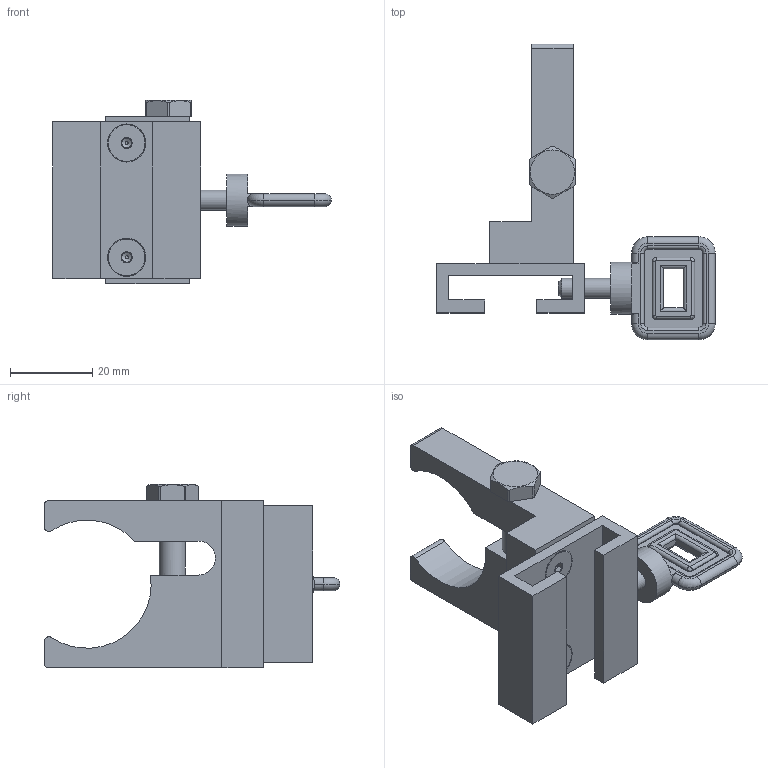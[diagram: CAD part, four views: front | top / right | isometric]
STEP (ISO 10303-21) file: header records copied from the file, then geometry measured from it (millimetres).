
FILE_DESCRIPTION((''),'2;1');
FILE_NAME('C:\3D Projects\3D Standard Parts\1070269 Valve Mounting Bracket Kit.stp','2008-07-30T11:51:19',('patch'),(''),'Autodesk Inventor 2009','Autodesk Inventor 2009','');
FILE_SCHEMA(('AUTOMOTIVE_DESIGN { 1 0 10303 214 1 1 1 1 }'));
Length unit declared in the file: inch
Products named in the file (8): 1070269 Valve Mounting Bracket Kit; 8901613 Valve 1049138 Mounting Bracket Assembly; 8901613 Valve 1049138 Mounting Bracket; 0.25-20 x .75 Heli-Coil; 987947 Rev A C-Clamp; 987948 Rev A Thumbscrew; 986419 Regular Hex Bolt 0.25-20 x 1.5; 984331 Flat Head Socket Screw #8-32 x 0.5
Assembly tree (8 placements, depth 3):
  1070269 Valve Mounting Bracket Kit
    8901613 Valve 1049138 Mounting Bracket Assembly
      8901613 Valve 1049138 Mounting Bracket
      0.25-20 x .75 Heli-Coil
    987947 Rev A C-Clamp
    987948 Rev A Thumbscrew
    986419 Regular Hex Bolt 0.25-20 x 1.5
    984331 Flat Head Socket Screw #8-32 x 0.5  x2
Bounding box: 67.67 x 71.83 x 44.61 mm (x, y, z)
Volume: 28799 mm3; surface area: 17769.3 mm2
Topology: 7 solids, 7 shells, 403 faces, 982 edges, 605 vertices
Faces by surface type: cylinder 146, cone 108, plane 96, bspline 34, torus 19
Full cylindrical faces by diameter (mm): 3.551 x22, 4.166 x22, 4.826 x1, 5.387 x14, 6.35 x14, 7.366 x1, 7.938 x1, 12.7 x1
Entity records: 12705 total; most frequent: CARTESIAN_POINT 5591, DIRECTION 1376, ORIENTED_EDGE 1324, EDGE_CURVE 662, AXIS2_PLACEMENT_3D 568, VERTEX_POINT 481, EDGE_LOOP 473, FACE_OUTER_BOUND 324
